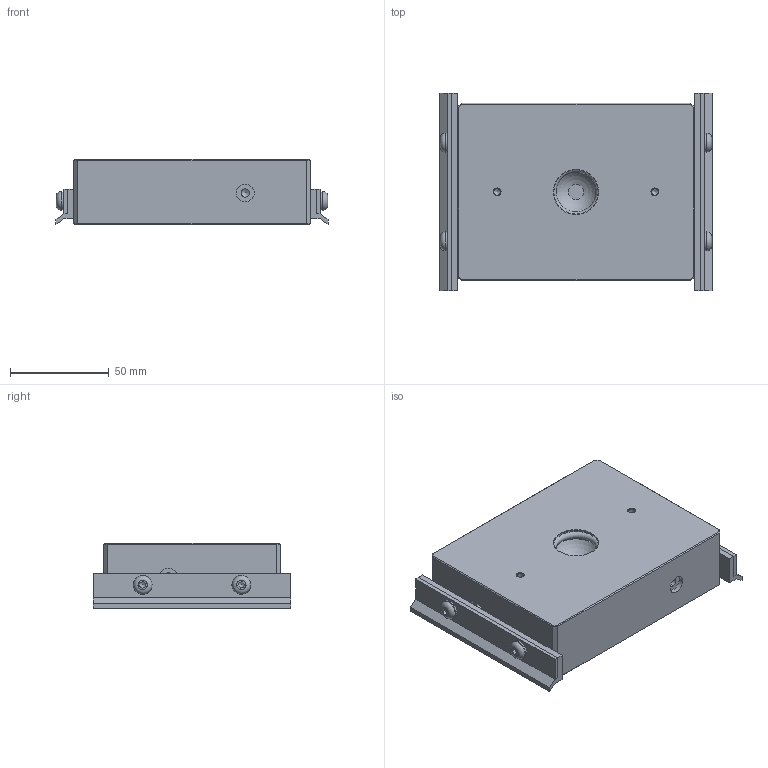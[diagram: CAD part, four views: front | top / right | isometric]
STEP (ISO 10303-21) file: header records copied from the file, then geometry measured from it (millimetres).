
FILE_DESCRIPTION(/* description */ (''),/* implementation_level */ '2;1');
FILE_NAME(/* name */ 'C:\VAULT\ARCHIVIO\MAGER\PATTINI\HRA\HRA-2010x\File Step Orazio\OK_WF10101H332T0_AIRPAD HRA-2010PTW 090x120x33.0.stp',/* time_stamp */ '2021-10-19T15:05:06+02:00',/* author */ ('Orazio.Farruggio'),/* organization */ (''),/* preprocessor_version */ 'ST-DEVELOPER v18.1',/* originating_system */ 'Autodesk Inventor 2022',/* authorisation */ '');
FILE_SCHEMA (('AUTOMOTIVE_DESIGN { 1 0 10303 214 3 1 1 }'));
Length unit declared in the file: millimetre
Products named in the file (1): WF10100H332T0_AIRPAD HRA-2010PT 090x120x33.0___Sostituto_1
Bounding box: 138 x 100 x 33 mm (x, y, z)
Volume: 364077.9 mm3; surface area: 74366.4 mm2
Topology: 13 solids, 13 shells, 197 faces, 429 edges, 273 vertices
Faces by surface type: plane 109, cylinder 47, cone 31, torus 9, sphere 1
Full cylindrical faces by diameter (mm): 3.242 x2, 4.134 x8, 5 x4, 5.3 x4, 6 x8, 8 x1, 8.566 x6, 9 x4, 9.5 x8, 22.5 x1, 27.4 x1
Entity records: 5564 total; most frequent: CARTESIAN_POINT 942, DIRECTION 924, ORIENTED_EDGE 830, EDGE_CURVE 415, AXIS2_PLACEMENT_3D 339, VERTEX_POINT 273, LINE 246, VECTOR 246
